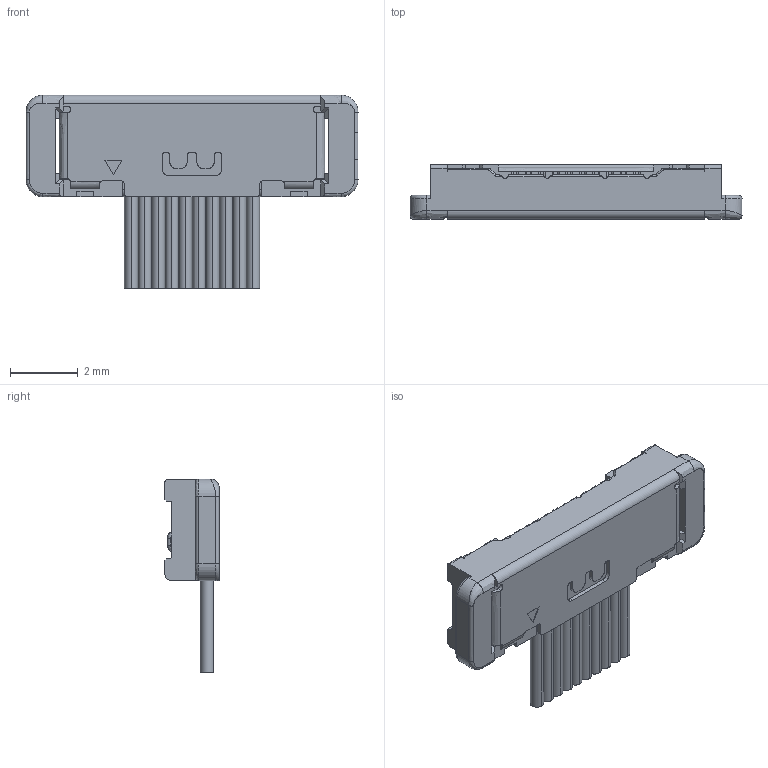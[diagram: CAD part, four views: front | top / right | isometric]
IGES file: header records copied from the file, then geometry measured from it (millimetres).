
Start section: SolidWorks IGES file using analytic representation for surfaces
Global section: file name: C:\Users\3dcad\Desktop\CAB-SS 3D僨乕僞\20380-010T-03C PLUG CABLE ASS'Y IGES R7R2 ALL.IGS,15; native system: HSolidWorks 2011; preprocessor: SolidWorks 2011; author: 3dcad; date: 120217.191945; units: millimetre
Bounding box: 9.8 x 1.6 x 5.72 mm (x, y, z)
Surface area: 180.2 mm2 (no closed solid volume)
Topology: 0 solids, 0 shells, 616 faces, 5565 edges, 5565 vertices
Faces by surface type: bspline 435, revolution 181
